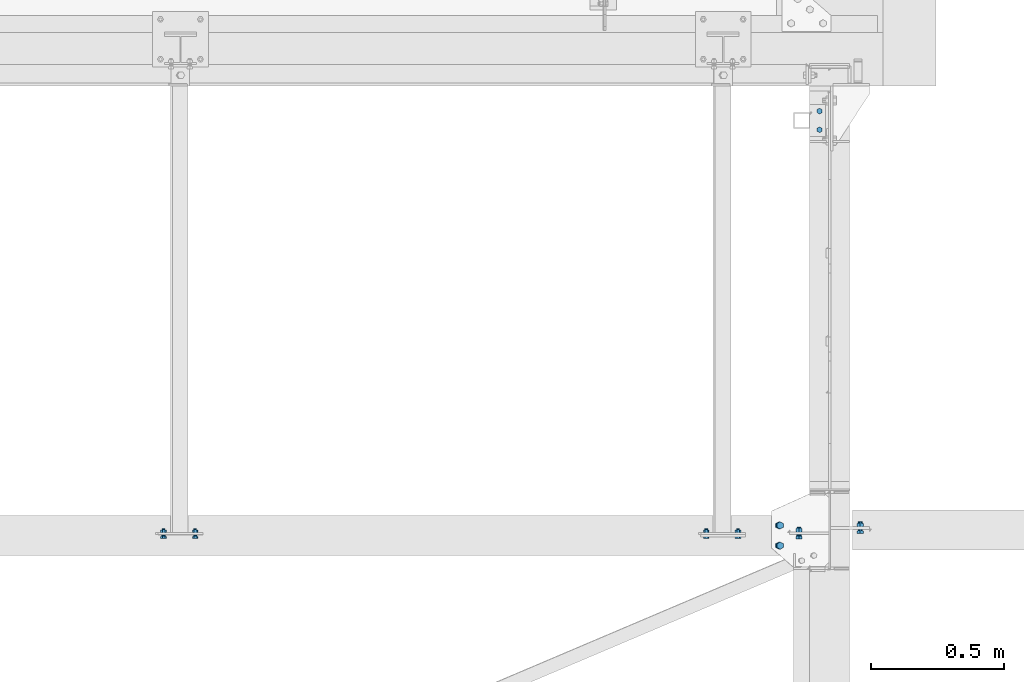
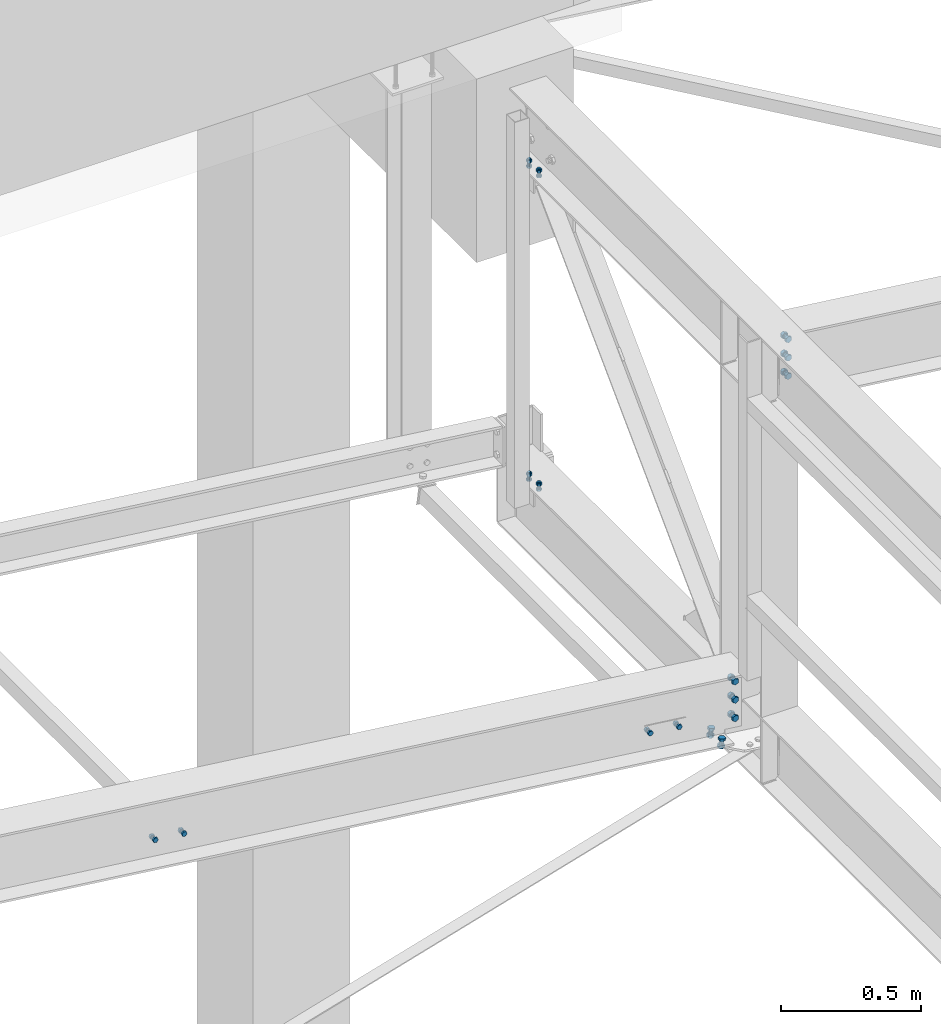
# One storey, part 264 of 3134: 7 mechanical fasteners, 5 elements without a shape of their own.
"""IFC2X3 building model written with IfcOpenShell, lengths in millimetres."""

import ifcopenshell
import ifcopenshell.guid

model = None  # the IFC model being written
_history = None  # IfcOwnerHistory: only IFC2X3 demands one
_inside = {}  # id of a spatial element -> (the spatial element, [elements in it])
_under = {}  # id of a project, library or spatial element -> (it, [spatial elements below it])
_declared = {}  # id of a project -> (the project, [libraries it declares])
_typed = {}  # id of a type object -> (the type object, [elements of that type])
_made_of = {}  # id of a material, layer set ... -> (it, [elements and type objects made of it])


def new_model(schema):
    """Start an empty IFC model of exactly this schema.

    Asked for "IFC4X3", IfcOpenShell would pick the latest addendum, in which some entities
    have other attributes; the version numbers below select the first issue.
    IFC2X3 requires an IfcOwnerHistory on every rooted entity: one is made here for all.
    """
    global model, _history
    if schema == "IFC4X3":
        model = ifcopenshell.file(schema_version=(4, 3, 0, 0))
    else:
        model = ifcopenshell.file(schema=schema)
    _inside.clear()
    _under.clear()
    _declared.clear()
    _typed.clear()
    _made_of.clear()
    _history = None
    if model.schema == "IFC2X3":
        org = make("IfcOrganization", Name="unknown")
        user = make(
            "IfcPersonAndOrganization",
            ThePerson=make("IfcPerson", FamilyName="unknown"),
            TheOrganization=org,
        )
        app = make(
            "IfcApplication",
            ApplicationDeveloper=org,
            Version="unknown",
            ApplicationFullName="unknown",
            ApplicationIdentifier="unknown",
        )
        _history = make(
            "IfcOwnerHistory",
            OwningUser=user,
            OwningApplication=app,
            ChangeAction="ADDED",
            CreationDate=0,
        )
    return model


def make(cls, **values):
    """One entity of the class cls with the attributes given. An attribute that is None is left unset."""
    return model.create_entity(
        cls, **{name: value for name, value in values.items() if value is not None}
    )


def rooted(cls, **values):
    """An entity with a GlobalId (a new one), such as an element, a storey or a relation."""
    return make(cls, GlobalId=ifcopenshell.guid.new(), OwnerHistory=_history, **values)


def si_unit(unit_type, name, prefix=None):
    """IfcSIUnit, for example si_unit("LENGTHUNIT", "METRE", prefix="MILLI")."""
    return make("IfcSIUnit", UnitType=unit_type, Prefix=prefix, Name=name)


def assignment(units):
    """IfcUnitAssignment: the units of a project."""
    return None if units is None else make("IfcUnitAssignment", Units=units)


def point(xyz):
    """IfcCartesianPoint."""
    return None if xyz is None else make("IfcCartesianPoint", Coordinates=xyz)


def direction(xyz):
    """IfcDirection."""
    return None if xyz is None else make("IfcDirection", DirectionRatios=xyz)


def frame(location, z_axis=None, x_axis=None):
    """IfcAxis2Placement3D, a coordinate frame: its origin and axes. An axis left out is left unset."""
    return make(
        "IfcAxis2Placement3D",
        Location=point(location),
        Axis=direction(z_axis),
        RefDirection=direction(x_axis),
    )


def origin_with_axes():
    """The frame at (0, 0, 0) with the z axis (0, 0, 1) and the x axis (1, 0, 0) written out."""
    return frame((0.0, 0.0, 0.0), z_axis=(0.0, 0.0, 1.0), x_axis=(1.0, 0.0, 0.0))


def place(relative_to, where):
    """IfcLocalPlacement: puts the frame where relative to a parent placement (None: the world)."""
    return make(
        "IfcLocalPlacement", PlacementRelTo=relative_to, RelativePlacement=where
    )


def context(
    kind, dimensions, precision=None, world=None, true_north=None, identifier=None
):
    """IfcGeometricRepresentationContext, for example the 3D "Model" context."""
    return make(
        "IfcGeometricRepresentationContext",
        ContextIdentifier=identifier,
        ContextType=kind,
        CoordinateSpaceDimension=dimensions,
        Precision=precision,
        WorldCoordinateSystem=world,
        TrueNorth=true_north,
    )


def subcontext(parent, identifier, kind, view, scale=None):
    """IfcGeometricRepresentationSubContext, for example "Body" below "Model"."""
    return make(
        "IfcGeometricRepresentationSubContext",
        ContextIdentifier=identifier,
        ContextType=kind,
        ParentContext=parent,
        TargetScale=scale,
        TargetView=view,
    )


def project(units=None, contexts=None):
    """IfcProject with its units and contexts."""
    return rooted(
        "IfcProject",
        Name="project",
        RepresentationContexts=contexts,
        UnitsInContext=assignment(units),
    )


def spatial(cls, under=None, at=None, **own):
    """A site, building, storey or space (cls), placed at a placement, below another one or the project."""
    s = rooted(cls, ObjectPlacement=at, **own)
    if under is not None:
        _under.setdefault(under.id(), (under, []))[1].append(s)
    return s


def faces_of(points, faces, orient=None, outer=None):
    """IfcFace entities. A face is a list of loops; a loop is a list of indices into points, from 0.

    orient and outer hold one flag for each loop. By default every Orientation is true, the
    first loop of a face is its IfcFaceOuterBound and the others are IfcFaceBound.
    """
    made = []
    for i, loops in enumerate(faces):
        bounds = []
        for j, loop in enumerate(loops):
            is_outer = j == 0 if outer is None else outer[i][j]
            bounds.append(
                make(
                    "IfcFaceOuterBound" if is_outer else "IfcFaceBound",
                    Bound=make("IfcPolyLoop", Polygon=[points[k] for k in loop]),
                    Orientation=True if orient is None else orient[i][j],
                )
            )
        made.append(make("IfcFace", Bounds=bounds))
    return made


def faceted_brep(points, faces, orient=None, outer=None, voids=None):
    """IfcFacetedBrep: a solid bounded by flat faces; with voids (closed shells), ...WithVoids."""
    shared = [point(p) for p in points]
    hull = make("IfcClosedShell", CfsFaces=faces_of(shared, faces, orient, outer))
    if voids is None:
        return make("IfcFacetedBrep", Outer=hull)
    return make(
        "IfcFacetedBrepWithVoids",
        Outer=hull,
        Voids=[
            make(cls, CfsFaces=faces_of(shared, fs, o, b)) for cls, fs, o, b in voids
        ],
    )


def shape(context_of_items, identifier, shape_type, items):
    """IfcShapeRepresentation: the items that make up one representation, for example the "Body"."""
    return make(
        "IfcShapeRepresentation",
        ContextOfItems=context_of_items,
        RepresentationIdentifier=identifier,
        RepresentationType=shape_type,
        Items=items,
    )


def source(mapping_origin, context_of_items, identifier, shape_type, items):
    """IfcRepresentationMap: a shape defined once, which mapped items show again and again."""
    return make(
        "IfcRepresentationMap",
        MappingOrigin=mapping_origin,
        MappedRepresentation=shape(context_of_items, identifier, shape_type, items),
    )


def transform(
    local_origin,
    x_axis=None,
    y_axis=None,
    z_axis=None,
    scale=None,
    scale2=None,
    scale3=None,
    uniform=True,
):
    """IfcCartesianTransformationOperator3D, or its non-uniform kind. x_axis, y_axis, z_axis: its Axis1, 2, 3."""
    if uniform:
        return make(
            "IfcCartesianTransformationOperator3D",
            Axis1=direction(x_axis),
            Axis2=direction(y_axis),
            LocalOrigin=point(local_origin),
            Scale=scale,
            Axis3=direction(z_axis),
        )
    return make(
        "IfcCartesianTransformationOperator3DnonUniform",
        Axis1=direction(x_axis),
        Axis2=direction(y_axis),
        LocalOrigin=point(local_origin),
        Scale=scale,
        Axis3=direction(z_axis),
        Scale2=scale2,
        Scale3=scale3,
    )


def mapped(mapping_source, mapping_target):
    """IfcMappedItem: shows the shape of a source again, moved by a transform."""
    return make(
        "IfcMappedItem", MappingSource=mapping_source, MappingTarget=mapping_target
    )


def material(Name=None, Category=None):
    """IfcMaterial."""
    return make("IfcMaterial", Name=Name, Category=Category)


def made_of(thing, what):
    """Note that an element or type object is made of a material, layer set ...; save() writes the relation."""
    if what is not None:
        _made_of.setdefault(what.id(), (what, []))[1].append(thing)
    return thing


def type_object(cls, material=None, **own):
    """A type object (cls), such as IfcWallType, which elements share."""
    return made_of(rooted(cls, **own), material)


def element(
    cls,
    number,
    at=None,
    inside=None,
    cuts=None,
    type_object=None,
    material=None,
    context=None,
    identifier="Body",
    shape_type=None,
    held_by="IfcProductDefinitionShape",
    body=None,
    shapes=None,
    **own,
):
    """One element of the class cls, such as IfcWall. Its Tag is "e" and its number.

    at: its placement. inside: the storey or other place that contains it. cuts: it is an
    opening in that element (IfcRelVoidsElement). A single representation is given by context,
    identifier, shape_type and body (its items); several are given by shapes. held_by: the class
    of the entity that holds the representations. save() writes the other relations.
    """
    e = rooted(cls, Tag="e%d" % number, ObjectPlacement=at, **own)
    if body is not None:
        shapes = [shape(context, identifier, shape_type, body)]
    if shapes is not None:
        e.Representation = make(held_by, Representations=shapes)
    if inside is not None:
        _inside.setdefault(inside.id(), (inside, []))[1].append(e)
    if cuts is not None:
        rooted(
            "IfcRelVoidsElement", RelatingBuildingElement=cuts, RelatedOpeningElement=e
        )
    if type_object is not None:
        _typed.setdefault(type_object.id(), (type_object, []))[1].append(e)
    return made_of(e, material)


def aggregate(whole, parts):
    """IfcRelAggregates: a whole, such as a stair, and the parts it consists of."""
    return rooted("IfcRelAggregates", RelatingObject=whole, RelatedObjects=parts)


def save(model, path):
    """Write the relations noted so far, then the file.

    IfcRelAggregates (storeys below a building ...), IfcRelContainedInSpatialStructure (elements
    in a storey), IfcRelDefinesByType, IfcRelAssociatesMaterial and IfcRelDeclares: one each for
    every whole, place, type object, material and project.
    """
    for whole, parts in _under.values():
        aggregate(whole, parts)
    for where, things in _inside.values():
        rooted(
            "IfcRelContainedInSpatialStructure",
            RelatedElements=things,
            RelatingStructure=where,
        )
    for kind, things in _typed.values():
        rooted("IfcRelDefinesByType", RelatedObjects=things, RelatingType=kind)
    for what, things in _made_of.values():
        rooted("IfcRelAssociatesMaterial", RelatedObjects=things, RelatingMaterial=what)
    for by, libraries in _declared.values():
        rooted("IfcRelDeclares", RelatingContext=by, RelatedDefinitions=libraries)
    model.write(path)


model = new_model("IFC2X3")

# Units and contexts
model_context = context("Model", 3, precision=1e-05, world=origin_with_axes())
body_context = subcontext(model_context, "Body", "Model", "MODEL_VIEW")
ifc_project = project(units=[si_unit("LENGTHUNIT", "METRE", prefix="MILLI"), si_unit("AREAUNIT", "SQUARE_METRE"), si_unit("VOLUMEUNIT", "CUBIC_METRE"), si_unit("MASSUNIT", "GRAM", prefix="KILO"), si_unit("TIMEUNIT", "SECOND"), si_unit("PLANEANGLEUNIT", "RADIAN"), si_unit("SOLIDANGLEUNIT", "STERADIAN"), si_unit("THERMODYNAMICTEMPERATUREUNIT", "DEGREE_CELSIUS"), si_unit("LUMINOUSINTENSITYUNIT", "LUMEN")], contexts=[model_context])

# Site, building, storey
site_placement = place(None, origin_with_axes())
site = spatial("IfcSite", under=ifc_project, at=site_placement, CompositionType="ELEMENT")
building_placement = place(site_placement, origin_with_axes())
building = spatial("IfcBuilding", under=site, at=building_placement, Name="Undefined", CompositionType="ELEMENT")
storey_placement = place(building_placement, origin_with_axes())
storey = spatial("IfcBuildingStorey", under=building, at=storey_placement, Name="Undefined", CompositionType="ELEMENT", Elevation=0.0)

# Assembly, mechanical fastener
assembly_1_placement = place(storey_placement, origin_with_axes())
assembly_1 = element("IfcElementAssembly", 1, at=assembly_1_placement, inside=storey, AssemblyPlace="NOTDEFINED", PredefinedType="RIGID_FRAME")
ifc_material = material(Name="8.8")
mechanical_fastener_type = type_object("IfcMechanicalFastenerType", Name="Bolt assembly")
shared_shape_1 = source(origin_with_axes(), body_context, "Body", "Brep", [
    faceted_brep([(10.9696551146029, -14.0999999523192, 0.0), (5.48482755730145, -14.0999999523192, 9.5), (-5.48482755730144, -14.0999999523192, 9.5), (-10.9696551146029, -14.0999999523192, 1.34339530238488e-15), (-5.48482755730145, -14.0999999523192, -9.5), (5.48482755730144, -14.0999999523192, -9.50000000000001), (5.48482755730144, -6.09999995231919, -9.50000000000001), (-5.48482755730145, -6.09999995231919, -9.5), (-10.9696551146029, -6.09999995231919, 1.34339530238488e-15), (-5.48482755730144, -6.09999995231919, 9.5), (5.48482755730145, -6.09999995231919, 9.5), (10.9696551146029, -6.09999995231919, 0.0), (6.0, -6.09999995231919, 0.0), (5.19615242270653, -6.09999995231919, 3.00000000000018), (2.99999999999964, -6.09999995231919, 5.19615242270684), (-6.21801588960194e-13, -6.09999995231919, 6.0), (-3.00000000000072, -6.09999995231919, 5.19615242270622), (-5.19615242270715, -6.09999995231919, 2.9999999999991), (-6.0, -6.09999995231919, -1.24360317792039e-12), (-5.19615242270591, -6.09999995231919, -3.00000000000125), (-2.99999999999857, -6.09999995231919, -5.19615242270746), (1.85874342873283e-12, -6.09999995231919, -6.0), (3.00000000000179, -6.09999995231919, -5.1961524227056), (5.19615242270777, -6.09999995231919, -2.99999999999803), (5.19615242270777, 23.9000000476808, -2.99999999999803), (3.00000000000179, 23.9000000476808, -5.1961524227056), (1.85874342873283e-12, 23.9000000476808, -6.0), (-2.99999999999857, 23.9000000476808, -5.19615242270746), (-5.19615242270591, 23.9000000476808, -3.00000000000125), (-6.0, 23.9000000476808, -1.24360317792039e-12), (-5.19615242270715, 23.9000000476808, 2.9999999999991), (-3.00000000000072, 23.9000000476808, 5.19615242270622), (-6.21801588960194e-13, 23.9000000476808, 6.0), (2.99999999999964, 23.9000000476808, 5.19615242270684), (5.19615242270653, 23.9000000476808, 3.00000000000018), (6.0, 23.9000000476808, 0.0), (10.9696551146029, 8.0, 0.0), (5.48482755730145, 8.0, 9.5), (-5.48482755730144, 8.0, 9.5), (-10.9696551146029, 8.0, 1.34339530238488e-15), (-5.48482755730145, 8.0, -9.5), (5.48482755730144, 8.0, -9.50000000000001), (5.48482755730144, 18.0, -9.50000000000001), (-5.48482755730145, 18.0, -9.5), (-10.9696551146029, 18.0, 1.34339530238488e-15), (-5.48482755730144, 18.0, 9.5), (5.48482755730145, 18.0, 9.5), (10.9696551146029, 18.0, 0.0)], [[[0, 1, 2, 3, 4, 5]], [[6, 7, 8, 9, 10, 11]], [[0, 11, 10, 1]], [[1, 10, 9, 2]], [[2, 9, 8, 3]], [[3, 8, 7, 4]], [[4, 7, 6, 5]], [[5, 6, 11, 0]], [[12, 13, 14, 15, 16, 17, 18, 19, 20, 21, 22, 23]], [[24, 25, 26, 27, 28, 29, 30, 31, 32, 33, 34, 35]], [[12, 35, 34, 13]], [[13, 34, 33, 14]], [[14, 33, 32, 15]], [[15, 32, 31, 16]], [[16, 31, 30, 17]], [[17, 30, 29, 18]], [[18, 29, 28, 19]], [[19, 28, 27, 20]], [[20, 27, 26, 21]], [[21, 26, 25, 22]], [[22, 25, 24, 23]], [[23, 24, 35, 12]], [[36, 37, 38, 39, 40, 41]], [[42, 43, 44, 45, 46, 47]], [[36, 47, 46, 37]], [[37, 46, 45, 38]], [[38, 45, 44, 39]], [[39, 44, 43, 40]], [[40, 43, 42, 41]], [[41, 42, 47, 36]]]),
    faceted_brep([(7.0, -6.0, 0.0), (6.06217782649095, -6.0, 3.50000000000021), (3.49999999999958, -6.0, 6.06217782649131), (-7.25435187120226e-13, -6.0, 7.0), (-3.50000000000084, -6.0, 6.06217782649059), (-6.06217782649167, -6.0, 3.49999999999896), (-7.0, -6.0, -1.45087037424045e-12), (-6.06217782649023, -6.0, -3.50000000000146), (-3.49999999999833, -6.0, -6.06217782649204), (2.1685340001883e-12, -6.0, -7.0), (3.50000000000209, -6.0, -6.06217782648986), (6.0621778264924, -6.0, -3.4999999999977), (6.0621778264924, 0.0999999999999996, -3.4999999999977), (3.50000000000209, 0.0999999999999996, -6.06217782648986), (2.1685340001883e-12, 0.0999999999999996, -7.0), (-3.49999999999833, 0.0999999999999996, -6.06217782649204), (-6.06217782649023, 0.0999999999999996, -3.50000000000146), (-7.0, 0.0999999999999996, -1.45087037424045e-12), (-6.06217782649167, 0.0999999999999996, 3.49999999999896), (-3.50000000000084, 0.0999999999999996, 6.06217782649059), (-7.25435187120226e-13, 0.0999999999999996, 7.0), (3.49999999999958, 0.0999999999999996, 6.06217782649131), (6.06217782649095, 0.0999999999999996, 3.50000000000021), (7.0, 0.0999999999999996, 0.0), (7.0, -0.1, 0.0), (6.06217782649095, -0.1, 3.50000000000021), (3.49999999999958, -0.1, 6.06217782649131), (-7.25435187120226e-13, -0.1, 7.0), (-3.50000000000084, -0.1, 6.06217782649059), (-6.06217782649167, -0.1, 3.49999999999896), (-7.0, -0.1, -1.45087037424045e-12), (-6.06217782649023, -0.1, -3.50000000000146), (-3.49999999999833, -0.1, -6.06217782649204), (2.1685340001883e-12, -0.1, -7.0), (3.50000000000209, -0.1, -6.06217782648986), (6.0621778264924, -0.1, -3.4999999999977), (6.0621778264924, 8.0000000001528, -3.4999999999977), (3.50000000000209, 8.0000000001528, -6.06217782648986), (2.1685340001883e-12, 8.0000000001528, -7.0), (-3.49999999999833, 8.0000000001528, -6.06217782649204), (-6.06217782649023, 8.0000000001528, -3.50000000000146), (-7.0, 8.0000000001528, -1.45087037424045e-12), (-6.06217782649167, 8.0000000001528, 3.49999999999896), (-3.50000000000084, 8.0000000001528, 6.06217782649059), (-7.25435187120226e-13, 8.0000000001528, 7.0), (3.49999999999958, 8.0000000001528, 6.06217782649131), (6.06217782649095, 8.0000000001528, 3.50000000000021), (7.0, 8.0000000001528, 0.0)], [[[0, 1, 2, 3, 4, 5, 6, 7, 8, 9, 10, 11]], [[12, 13, 14, 15, 16, 17, 18, 19, 20, 21, 22, 23]], [[0, 23, 22, 1]], [[1, 22, 21, 2]], [[2, 21, 20, 3]], [[3, 20, 19, 4]], [[4, 19, 18, 5]], [[5, 18, 17, 6]], [[6, 17, 16, 7]], [[7, 16, 15, 8]], [[8, 15, 14, 9]], [[9, 14, 13, 10]], [[10, 13, 12, 11]], [[11, 12, 23, 0]], [[24, 25, 26, 27, 28, 29, 30, 31, 32, 33, 34, 35]], [[36, 37, 38, 39, 40, 41, 42, 43, 44, 45, 46, 47]], [[24, 47, 46, 25]], [[25, 46, 45, 26]], [[26, 45, 44, 27]], [[27, 44, 43, 28]], [[28, 43, 42, 29]], [[29, 42, 41, 30]], [[30, 41, 40, 31]], [[31, 40, 39, 32]], [[32, 39, 38, 33]], [[33, 38, 37, 34]], [[34, 37, 36, 35]], [[35, 36, 47, 24]]]),
])
mechanical_fastener_1_placement = place(assembly_1_placement, frame((30021.1959388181, 48033.05, 4482.21796577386), z_axis=(0.121269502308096, 0.0, 0.992619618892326), x_axis=(0.992619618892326, 0.0, -0.121269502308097)))
mechanical_fastener_1 = element("IfcMechanicalFastener", 2, at=mechanical_fastener_1_placement, type_object=mechanical_fastener_type, material=ifc_material, Name="Bolt assembly", NominalDiameter=12.0, NominalLength=30.0, context=body_context, shape_type="MappedRepresentation", body=[
    mapped(shared_shape_1, transform((0.0, 0.0, 0.0))),
    mapped(shared_shape_1, transform((120.0, 0.0, 0.0))),
])
aggregate(assembly_1, [mechanical_fastener_1])

assembly_2_placement = place(storey_placement, origin_with_axes())
assembly_2 = element("IfcElementAssembly", 3, at=assembly_2_placement, inside=storey, AssemblyPlace="NOTDEFINED", PredefinedType="RIGID_FRAME")
mechanical_fastener_2_placement = place(assembly_2_placement, frame((32061.1959388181, 48033.05, 4233.04796577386), z_axis=(0.121269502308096, 0.0, 0.992619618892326), x_axis=(0.992619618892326, 0.0, -0.121269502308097)))
mechanical_fastener_2 = element("IfcMechanicalFastener", 4, at=mechanical_fastener_2_placement, type_object=mechanical_fastener_type, material=ifc_material, Name="Bolt assembly", NominalDiameter=12.0, NominalLength=30.0, context=body_context, shape_type="MappedRepresentation", body=[
    mapped(shared_shape_1, transform((0.0, 0.0, 0.0))),
    mapped(shared_shape_1, transform((120.0, 0.0, 0.0))),
])
aggregate(assembly_2, [mechanical_fastener_2])

# Assembly, mechanical fasteners
assembly_3_placement = place(storey_placement, origin_with_axes())
assembly_3 = element("IfcElementAssembly", 5, at=assembly_3_placement, inside=storey, Name="300", AssemblyPlace="NOTDEFINED", PredefinedType="RIGID_FRAME")
shared_shape_2 = source(origin_with_axes(), body_context, "Body", "Brep", [
    faceted_brep([(10.9696551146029, -14.0, 0.0), (5.48482755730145, -14.0, 9.5), (-5.48482755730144, -14.0, 9.5), (-10.9696551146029, -14.0, 1.34339530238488e-15), (-5.48482755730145, -14.0, -9.5), (5.48482755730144, -14.0, -9.50000000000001), (5.48482755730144, -6.0, -9.50000000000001), (-5.48482755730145, -6.0, -9.5), (-10.9696551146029, -6.0, 1.34339530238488e-15), (-5.48482755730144, -6.0, 9.5), (5.48482755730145, -6.0, 9.5), (10.9696551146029, -6.0, 0.0), (6.0, -6.0, 0.0), (5.19615242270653, -6.0, 3.00000000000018), (2.99999999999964, -6.0, 5.19615242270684), (-6.21801588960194e-13, -6.0, 6.0), (-3.00000000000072, -6.0, 5.19615242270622), (-5.19615242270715, -6.0, 2.9999999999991), (-6.0, -6.0, -1.24360317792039e-12), (-5.19615242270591, -6.0, -3.00000000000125), (-2.99999999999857, -6.0, -5.19615242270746), (1.85874342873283e-12, -6.0, -6.0), (3.00000000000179, -6.0, -5.1961524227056), (5.19615242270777, -6.0, -2.99999999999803), (5.19615242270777, 24.0, -2.99999999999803), (3.00000000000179, 24.0, -5.1961524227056), (1.85874342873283e-12, 24.0, -6.0), (-2.99999999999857, 24.0, -5.19615242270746), (-5.19615242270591, 24.0, -3.00000000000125), (-6.0, 24.0, -1.24360317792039e-12), (-5.19615242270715, 24.0, 2.9999999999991), (-3.00000000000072, 24.0, 5.19615242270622), (-6.21801588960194e-13, 24.0, 6.0), (2.99999999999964, 24.0, 5.19615242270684), (5.19615242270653, 24.0, 3.00000000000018), (6.0, 24.0, 0.0), (10.9696551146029, 9.20207715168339, 0.0), (5.48482755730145, 9.20207715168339, 9.5), (-5.48482755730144, 9.20207715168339, 9.5), (-10.9696551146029, 9.20207715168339, 1.34339530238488e-15), (-5.48482755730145, 9.20207715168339, -9.5), (5.48482755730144, 9.20207715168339, -9.50000000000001), (5.48482755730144, 19.2020771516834, -9.50000000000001), (-5.48482755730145, 19.2020771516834, -9.5), (-10.9696551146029, 19.2020771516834, 1.34339530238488e-15), (-5.48482755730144, 19.2020771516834, 9.5), (5.48482755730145, 19.2020771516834, 9.5), (10.9696551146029, 19.2020771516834, 0.0)], [[[0, 1, 2, 3, 4, 5]], [[6, 7, 8, 9, 10, 11]], [[0, 11, 10, 1]], [[1, 10, 9, 2]], [[2, 9, 8, 3]], [[3, 8, 7, 4]], [[4, 7, 6, 5]], [[5, 6, 11, 0]], [[12, 13, 14, 15, 16, 17, 18, 19, 20, 21, 22, 23]], [[24, 25, 26, 27, 28, 29, 30, 31, 32, 33, 34, 35]], [[12, 35, 34, 13]], [[13, 34, 33, 14]], [[14, 33, 32, 15]], [[15, 32, 31, 16]], [[16, 31, 30, 17]], [[17, 30, 29, 18]], [[18, 29, 28, 19]], [[19, 28, 27, 20]], [[20, 27, 26, 21]], [[21, 26, 25, 22]], [[22, 25, 24, 23]], [[23, 24, 35, 12]], [[36, 37, 38, 39, 40, 41]], [[42, 43, 44, 45, 46, 47]], [[36, 47, 46, 37]], [[37, 46, 45, 38]], [[38, 45, 44, 39]], [[39, 44, 43, 40]], [[40, 43, 42, 41]], [[41, 42, 47, 36]]]),
    faceted_brep([(7.0, -5.9, 0.0), (6.06217782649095, -5.9, 3.50000000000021), (3.49999999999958, -5.9, 6.06217782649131), (-7.25435187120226e-13, -5.9, 7.0), (-3.50000000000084, -5.9, 6.06217782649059), (-6.06217782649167, -5.9, 3.49999999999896), (-7.0, -5.9, -1.45087037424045e-12), (-6.06217782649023, -5.9, -3.50000000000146), (-3.49999999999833, -5.9, -6.06217782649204), (2.1685340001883e-12, -5.9, -7.0), (3.50000000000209, -5.9, -6.06217782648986), (6.0621778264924, -5.9, -3.4999999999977), (6.0621778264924, 0.0999999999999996, -3.4999999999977), (3.50000000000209, 0.0999999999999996, -6.06217782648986), (2.1685340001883e-12, 0.0999999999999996, -7.0), (-3.49999999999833, 0.0999999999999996, -6.06217782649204), (-6.06217782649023, 0.0999999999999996, -3.50000000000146), (-7.0, 0.0999999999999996, -1.45087037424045e-12), (-6.06217782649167, 0.0999999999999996, 3.49999999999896), (-3.50000000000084, 0.0999999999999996, 6.06217782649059), (-7.25435187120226e-13, 0.0999999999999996, 7.0), (3.49999999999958, 0.0999999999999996, 6.06217782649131), (6.06217782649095, 0.0999999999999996, 3.50000000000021), (7.0, 0.0999999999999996, 0.0), (7.0, -0.097922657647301, 0.0), (6.06217782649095, -0.097922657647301, 3.50000000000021), (3.49999999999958, -0.097922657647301, 6.06217782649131), (-7.25435187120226e-13, -0.097922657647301, 7.0), (-3.50000000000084, -0.097922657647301, 6.06217782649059), (-6.06217782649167, -0.097922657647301, 3.49999999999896), (-7.0, -0.097922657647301, -1.45087037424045e-12), (-6.06217782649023, -0.097922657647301, -3.50000000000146), (-3.49999999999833, -0.097922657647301, -6.06217782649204), (2.1685340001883e-12, -0.097922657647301, -7.0), (3.50000000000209, -0.097922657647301, -6.06217782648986), (6.0621778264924, -0.097922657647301, -3.4999999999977), (6.0621778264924, 9.20207715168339, -3.4999999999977), (3.50000000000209, 9.20207715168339, -6.06217782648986), (2.1685340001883e-12, 9.20207715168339, -7.0), (-3.49999999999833, 9.20207715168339, -6.06217782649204), (-6.06217782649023, 9.20207715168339, -3.50000000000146), (-7.0, 9.20207715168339, -1.45087037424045e-12), (-6.06217782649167, 9.20207715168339, 3.49999999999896), (-3.50000000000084, 9.20207715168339, 6.06217782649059), (-7.25435187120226e-13, 9.20207715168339, 7.0), (3.49999999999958, 9.20207715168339, 6.06217782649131), (6.06217782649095, 9.20207715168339, 3.50000000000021), (7.0, 9.20207715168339, 0.0)], [[[0, 1, 2, 3, 4, 5, 6, 7, 8, 9, 10, 11]], [[12, 13, 14, 15, 16, 17, 18, 19, 20, 21, 22, 23]], [[0, 23, 22, 1]], [[1, 22, 21, 2]], [[2, 21, 20, 3]], [[3, 20, 19, 4]], [[4, 19, 18, 5]], [[5, 18, 17, 6]], [[6, 17, 16, 7]], [[7, 16, 15, 8]], [[8, 15, 14, 9]], [[9, 14, 13, 10]], [[10, 13, 12, 11]], [[11, 12, 23, 0]], [[24, 25, 26, 27, 28, 29, 30, 31, 32, 33, 34, 35]], [[36, 37, 38, 39, 40, 41, 42, 43, 44, 45, 46, 47]], [[24, 47, 46, 25]], [[25, 46, 45, 26]], [[26, 45, 44, 27]], [[27, 44, 43, 28]], [[28, 43, 42, 29]], [[29, 42, 41, 30]], [[30, 41, 40, 31]], [[31, 40, 39, 32]], [[32, 39, 38, 33]], [[33, 38, 37, 34]], [[34, 37, 36, 35]], [[35, 36, 47, 24]]]),
])
mechanical_fastener_3_placement = place(assembly_3_placement, frame((32487.0, 49625.0001186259, 5592.99792265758), z_axis=(-1.0, 0.0, 0.0), x_axis=(0.0, -0.99999999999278, 3.80000037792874e-06)))
mechanical_fastener_3 = element("IfcMechanicalFastener", 6, at=mechanical_fastener_3_placement, type_object=mechanical_fastener_type, material=ifc_material, Name="Bolt assembly", NominalDiameter=12.0, NominalLength=30.0, context=body_context, shape_type="MappedRepresentation", body=[
    mapped(shared_shape_2, transform((0.0, 0.0, 0.0))),
    mapped(shared_shape_2, transform((70.0000000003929, -2.94676283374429e-10, 0.0))),
])
mechanical_fastener_4_placement = place(assembly_3_placement, frame((32487.0, 49625.0001186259, 4227.79792265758), z_axis=(-1.0, 0.0, 0.0), x_axis=(0.0, -0.99999999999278, 3.80000037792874e-06)))
mechanical_fastener_4 = element("IfcMechanicalFastener", 7, at=mechanical_fastener_4_placement, type_object=mechanical_fastener_type, material=ifc_material, Name="Bolt assembly", NominalDiameter=12.0, NominalLength=30.0, context=body_context, shape_type="MappedRepresentation", body=[
    mapped(shared_shape_2, transform((0.0, 0.0, 0.0))),
    mapped(shared_shape_2, transform((70.0000000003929, -2.94676283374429e-10, 0.0))),
])
aggregate(assembly_3, [mechanical_fastener_3, mechanical_fastener_4])

assembly_4_placement = place(storey_placement, origin_with_axes())
assembly_4 = element("IfcElementAssembly", 8, at=assembly_4_placement, inside=storey, Name="300", AssemblyPlace="NOTDEFINED", PredefinedType="RIGID_FRAME")
shared_shape_3 = source(origin_with_axes(), body_context, "Body", "Brep", [
    faceted_brep([(13.856406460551, -19.199990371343, 0.0), (6.92820323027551, -19.199990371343, 12.0), (-6.92820323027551, -19.199990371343, 12.0), (-13.856406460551, -19.199990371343, 1.69692038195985e-15), (-6.92820323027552, -19.199990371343, -12.0), (6.9282032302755, -19.199990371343, -12.0), (6.9282032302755, -9.19999037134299, -12.0), (-6.92820323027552, -9.19999037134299, -12.0), (-13.856406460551, -9.19999037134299, 1.69692038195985e-15), (-6.92820323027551, -9.19999037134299, 12.0), (6.92820323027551, -9.19999037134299, 12.0), (13.856406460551, -9.19999037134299, 0.0), (8.0, -9.19999037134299, 0.0), (6.92820323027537, -9.19999037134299, 4.00000000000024), (3.99999999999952, -9.19999037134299, 6.92820323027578), (-8.29068785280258e-13, -9.19999037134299, 8.0), (-4.00000000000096, -9.19999037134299, 6.92820323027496), (-6.9282032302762, -9.19999037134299, 3.99999999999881), (-8.0, -9.19999037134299, -1.65813757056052e-12), (-6.92820323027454, -9.19999037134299, -4.00000000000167), (-3.99999999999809, -9.19999037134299, -6.92820323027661), (2.47832457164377e-12, -9.19999037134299, -8.0), (4.00000000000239, -9.19999037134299, -6.92820323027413), (6.92820323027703, -9.19999037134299, -3.99999999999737), (6.92820323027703, 25.800009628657, -3.99999999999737), (4.00000000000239, 25.800009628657, -6.92820323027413), (2.47832457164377e-12, 25.800009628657, -8.0), (-3.99999999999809, 25.800009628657, -6.92820323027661), (-6.92820323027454, 25.800009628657, -4.00000000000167), (-8.0, 25.800009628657, -1.65813757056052e-12), (-6.9282032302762, 25.800009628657, 3.99999999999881), (-4.00000000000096, 25.800009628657, 6.92820323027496), (-8.29068785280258e-13, 25.800009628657, 8.0), (3.99999999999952, 25.800009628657, 6.92820323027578), (6.92820323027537, 25.800009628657, 4.00000000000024), (8.0, 25.800009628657, 0.0), (13.856406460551, 8.00000637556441, 0.0), (6.92820323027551, 8.00000637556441, 12.0), (-6.92820323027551, 8.00000637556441, 12.0), (-13.856406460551, 8.00000637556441, 1.69692038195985e-15), (-6.92820323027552, 8.00000637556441, -12.0), (6.9282032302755, 8.00000637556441, -12.0), (6.9282032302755, 21.0000063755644, -12.0), (-6.92820323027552, 21.0000063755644, -12.0), (-13.856406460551, 21.0000063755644, 1.69692038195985e-15), (-6.92820323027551, 21.0000063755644, 12.0), (6.92820323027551, 21.0000063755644, 12.0), (13.856406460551, 21.0000063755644, 0.0)], [[[0, 1, 2, 3, 4, 5]], [[6, 7, 8, 9, 10, 11]], [[0, 11, 10, 1]], [[1, 10, 9, 2]], [[2, 9, 8, 3]], [[3, 8, 7, 4]], [[4, 7, 6, 5]], [[5, 6, 11, 0]], [[12, 13, 14, 15, 16, 17, 18, 19, 20, 21, 22, 23]], [[24, 25, 26, 27, 28, 29, 30, 31, 32, 33, 34, 35]], [[12, 35, 34, 13]], [[13, 34, 33, 14]], [[14, 33, 32, 15]], [[15, 32, 31, 16]], [[16, 31, 30, 17]], [[17, 30, 29, 18]], [[18, 29, 28, 19]], [[19, 28, 27, 20]], [[20, 27, 26, 21]], [[21, 26, 25, 22]], [[22, 25, 24, 23]], [[23, 24, 35, 12]], [[36, 37, 38, 39, 40, 41]], [[42, 43, 44, 45, 46, 47]], [[36, 47, 46, 37]], [[37, 46, 45, 38]], [[38, 45, 44, 39]], [[39, 44, 43, 40]], [[40, 43, 42, 41]], [[41, 42, 47, 36]]]),
    faceted_brep([(9.0, -0.1, 0.0), (7.79422863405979, -0.1, 4.50000000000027), (4.49999999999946, -0.1, 7.79422863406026), (-9.3270238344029e-13, -0.1, 9.0), (-4.50000000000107, -0.1, 7.79422863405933), (-7.79422863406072, -0.1, 4.49999999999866), (-9.0, -0.1, -1.86540476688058e-12), (-7.79422863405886, -0.1, -4.50000000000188), (-4.49999999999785, -0.1, -7.79422863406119), (2.78811514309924e-12, -0.1, -9.0), (4.50000000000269, -0.1, -7.7942286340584), (7.79422863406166, -0.1, -4.49999999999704), (7.79422863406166, 8.00000000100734, -4.49999999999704), (4.50000000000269, 8.00000000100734, -7.7942286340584), (2.78811514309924e-12, 8.00000000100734, -9.0), (-4.49999999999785, 8.00000000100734, -7.79422863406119), (-7.79422863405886, 8.00000000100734, -4.50000000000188), (-9.0, 8.00000000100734, -1.86540476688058e-12), (-7.79422863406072, 8.00000000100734, 4.49999999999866), (-4.50000000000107, 8.00000000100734, 7.79422863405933), (-9.3270238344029e-13, 8.00000000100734, 9.0), (4.49999999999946, 8.00000000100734, 7.79422863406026), (7.79422863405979, 8.00000000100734, 4.50000000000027), (9.0, 8.00000000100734, 0.0), (9.0, -9.09999037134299, 0.0), (7.79422863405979, -9.09999037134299, 4.50000000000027), (4.49999999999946, -9.09999037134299, 7.79422863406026), (-9.3270238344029e-13, -9.09999037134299, 9.0), (-4.50000000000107, -9.09999037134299, 7.79422863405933), (-7.79422863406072, -9.09999037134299, 4.49999999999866), (-9.0, -9.09999037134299, -1.86540476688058e-12), (-7.79422863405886, -9.09999037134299, -4.50000000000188), (-4.49999999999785, -9.09999037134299, -7.79422863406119), (2.78811514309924e-12, -9.09999037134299, -9.0), (4.50000000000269, -9.09999037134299, -7.7942286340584), (7.79422863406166, -9.09999037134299, -4.49999999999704), (7.79422863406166, 0.100000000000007, -4.49999999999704), (4.50000000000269, 0.100000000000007, -7.7942286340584), (2.78811514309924e-12, 0.100000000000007, -9.0), (-4.49999999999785, 0.100000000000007, -7.79422863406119), (-7.79422863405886, 0.100000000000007, -4.50000000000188), (-9.0, 0.100000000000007, -1.86540476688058e-12), (-7.79422863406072, 0.100000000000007, 4.49999999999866), (-4.50000000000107, 0.100000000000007, 7.79422863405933), (-9.3270238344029e-13, 0.100000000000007, 9.0), (4.49999999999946, 0.100000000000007, 7.79422863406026), (7.79422863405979, 0.100000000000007, 4.50000000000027), (9.0, 0.100000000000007, 0.0)], [[[0, 1, 2, 3, 4, 5, 6, 7, 8, 9, 10, 11]], [[12, 13, 14, 15, 16, 17, 18, 19, 20, 21, 22, 23]], [[0, 23, 22, 1]], [[1, 22, 21, 2]], [[2, 21, 20, 3]], [[3, 20, 19, 4]], [[4, 19, 18, 5]], [[5, 18, 17, 6]], [[6, 17, 16, 7]], [[7, 16, 15, 8]], [[8, 15, 14, 9]], [[9, 14, 13, 10]], [[10, 13, 12, 11]], [[11, 12, 23, 0]], [[24, 25, 26, 27, 28, 29, 30, 31, 32, 33, 34, 35]], [[36, 37, 38, 39, 40, 41, 42, 43, 44, 45, 46, 47]], [[24, 47, 46, 25]], [[25, 46, 45, 26]], [[26, 45, 44, 27]], [[27, 44, 43, 28]], [[28, 43, 42, 29]], [[29, 42, 41, 30]], [[30, 41, 40, 31]], [[31, 40, 39, 32]], [[32, 39, 38, 33]], [[33, 38, 37, 34]], [[34, 37, 36, 35]], [[35, 36, 47, 24]]]),
])
mechanical_fastener_5_placement = place(assembly_4_placement, frame((32336.7539628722, 48067.9995130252, 4116.78546253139), z_axis=(0.992623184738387, -1.63108538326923e-05, -0.12124031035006), x_axis=(-1.62000016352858e-05, -0.999999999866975, 1.90000018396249e-06)))
mechanical_fastener_5 = element("IfcMechanicalFastener", 9, at=mechanical_fastener_5_placement, type_object=mechanical_fastener_type, material=ifc_material, Name="Bolt assembly", NominalDiameter=16.0, NominalLength=35.0, context=body_context, shape_type="MappedRepresentation", body=[
    mapped(shared_shape_3, transform((0.0, 0.0, 0.0))),
    mapped(shared_shape_3, transform((76.0, 0.0, 0.0))),
])
shared_shape_4 = source(origin_with_axes(), body_context, "Body", "Brep", [
    faceted_brep([(13.856406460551, -13.0499999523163, 0.0), (6.92820323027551, -13.0499999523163, 12.0), (-6.92820323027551, -13.0499999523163, 12.0), (-13.856406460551, -13.0499999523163, 1.69692038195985e-15), (-6.92820323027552, -13.0499999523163, -12.0), (6.9282032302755, -13.0499999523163, -12.0), (6.9282032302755, -3.04999995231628, -12.0), (-6.92820323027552, -3.04999995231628, -12.0), (-13.856406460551, -3.04999995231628, 1.69692038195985e-15), (-6.92820323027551, -3.04999995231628, 12.0), (6.92820323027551, -3.04999995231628, 12.0), (13.856406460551, -3.04999995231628, 0.0), (8.0, -3.04999995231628, 0.0), (6.92820323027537, -3.04999995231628, 4.00000000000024), (3.99999999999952, -3.04999995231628, 6.92820323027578), (-8.29068785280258e-13, -3.04999995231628, 8.0), (-4.00000000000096, -3.04999995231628, 6.92820323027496), (-6.9282032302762, -3.04999995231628, 3.99999999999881), (-8.0, -3.04999995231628, -1.65813757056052e-12), (-6.92820323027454, -3.04999995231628, -4.00000000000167), (-3.99999999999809, -3.04999995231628, -6.92820323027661), (2.47832457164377e-12, -3.04999995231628, -8.0), (4.00000000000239, -3.04999995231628, -6.92820323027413), (6.92820323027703, -3.04999995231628, -3.99999999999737), (6.92820323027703, 31.9500000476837, -3.99999999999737), (4.00000000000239, 31.9500000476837, -6.92820323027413), (2.47832457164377e-12, 31.9500000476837, -8.0), (-3.99999999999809, 31.9500000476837, -6.92820323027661), (-6.92820323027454, 31.9500000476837, -4.00000000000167), (-8.0, 31.9500000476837, -1.65813757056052e-12), (-6.9282032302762, 31.9500000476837, 3.99999999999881), (-4.00000000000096, 31.9500000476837, 6.92820323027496), (-8.29068785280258e-13, 31.9500000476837, 8.0), (3.99999999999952, 31.9500000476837, 6.92820323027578), (6.92820323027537, 31.9500000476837, 4.00000000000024), (8.0, 31.9500000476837, 0.0), (13.856406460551, 13.0500000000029, 0.0), (6.92820323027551, 13.0500000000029, 12.0), (-6.92820323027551, 13.0500000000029, 12.0), (-13.856406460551, 13.0500000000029, 1.69692038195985e-15), (-6.92820323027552, 13.0500000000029, -12.0), (6.9282032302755, 13.0500000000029, -12.0), (6.9282032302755, 26.0500000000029, -12.0), (-6.92820323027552, 26.0500000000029, -12.0), (-13.856406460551, 26.0500000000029, 1.69692038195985e-15), (-6.92820323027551, 26.0500000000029, 12.0), (6.92820323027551, 26.0500000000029, 12.0), (13.856406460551, 26.0500000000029, 0.0)], [[[0, 1, 2, 3, 4, 5]], [[6, 7, 8, 9, 10, 11]], [[0, 11, 10, 1]], [[1, 10, 9, 2]], [[2, 9, 8, 3]], [[3, 8, 7, 4]], [[4, 7, 6, 5]], [[5, 6, 11, 0]], [[12, 13, 14, 15, 16, 17, 18, 19, 20, 21, 22, 23]], [[24, 25, 26, 27, 28, 29, 30, 31, 32, 33, 34, 35]], [[12, 35, 34, 13]], [[13, 34, 33, 14]], [[14, 33, 32, 15]], [[15, 32, 31, 16]], [[16, 31, 30, 17]], [[17, 30, 29, 18]], [[18, 29, 28, 19]], [[19, 28, 27, 20]], [[20, 27, 26, 21]], [[21, 26, 25, 22]], [[22, 25, 24, 23]], [[23, 24, 35, 12]], [[36, 37, 38, 39, 40, 41]], [[42, 43, 44, 45, 46, 47]], [[36, 47, 46, 37]], [[37, 46, 45, 38]], [[38, 45, 44, 39]], [[39, 44, 43, 40]], [[40, 43, 42, 41]], [[41, 42, 47, 36]]]),
    faceted_brep([(9.0, 2.95000000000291, 0.0), (7.79422863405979, 2.95000000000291, 4.50000000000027), (4.49999999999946, 2.95000000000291, 7.79422863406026), (-9.3270238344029e-13, 2.95000000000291, 9.0), (-4.50000000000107, 2.95000000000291, 7.79422863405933), (-7.79422863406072, 2.95000000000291, 4.49999999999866), (-9.0, 2.95000000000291, -1.86540476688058e-12), (-7.79422863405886, 2.95000000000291, -4.50000000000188), (-4.49999999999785, 2.95000000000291, -7.79422863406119), (2.78811514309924e-12, 2.95000000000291, -9.0), (4.50000000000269, 2.95000000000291, -7.7942286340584), (7.79422863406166, 2.95000000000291, -4.49999999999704), (7.79422863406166, 13.0500000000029, -4.49999999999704), (4.50000000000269, 13.0500000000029, -7.7942286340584), (2.78811514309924e-12, 13.0500000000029, -9.0), (-4.49999999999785, 13.0500000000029, -7.79422863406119), (-7.79422863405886, 13.0500000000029, -4.50000000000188), (-9.0, 13.0500000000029, -1.86540476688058e-12), (-7.79422863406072, 13.0500000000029, 4.49999999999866), (-4.50000000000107, 13.0500000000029, 7.79422863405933), (-9.3270238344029e-13, 13.0500000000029, 9.0), (4.49999999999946, 13.0500000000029, 7.79422863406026), (7.79422863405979, 13.0500000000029, 4.50000000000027), (9.0, 13.0500000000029, 0.0), (9.0, -2.94999995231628, 0.0), (7.79422863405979, -2.94999995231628, 4.50000000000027), (4.49999999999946, -2.94999995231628, 7.79422863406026), (-9.3270238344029e-13, -2.94999995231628, 9.0), (-4.50000000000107, -2.94999995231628, 7.79422863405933), (-7.79422863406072, -2.94999995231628, 4.49999999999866), (-9.0, -2.94999995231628, -1.86540476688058e-12), (-7.79422863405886, -2.94999995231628, -4.50000000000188), (-4.49999999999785, -2.94999995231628, -7.79422863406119), (2.78811514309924e-12, -2.94999995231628, -9.0), (4.50000000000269, -2.94999995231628, -7.7942286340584), (7.79422863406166, -2.94999995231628, -4.49999999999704), (7.79422863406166, 3.14999995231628, -4.49999999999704), (4.50000000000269, 3.14999995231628, -7.7942286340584), (2.78811514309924e-12, 3.14999995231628, -9.0), (-4.49999999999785, 3.14999995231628, -7.79422863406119), (-7.79422863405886, 3.14999995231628, -4.50000000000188), (-9.0, 3.14999995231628, -1.86540476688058e-12), (-7.79422863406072, 3.14999995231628, 4.49999999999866), (-4.50000000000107, 3.14999995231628, 7.79422863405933), (-9.3270238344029e-13, 3.14999995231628, 9.0), (4.49999999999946, 3.14999995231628, 7.79422863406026), (7.79422863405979, 3.14999995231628, 4.50000000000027), (9.0, 3.14999995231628, 0.0)], [[[0, 1, 2, 3, 4, 5, 6, 7, 8, 9, 10, 11]], [[12, 13, 14, 15, 16, 17, 18, 19, 20, 21, 22, 23]], [[0, 23, 22, 1]], [[1, 22, 21, 2]], [[2, 21, 20, 3]], [[3, 20, 19, 4]], [[4, 19, 18, 5]], [[5, 18, 17, 6]], [[6, 17, 16, 7]], [[7, 16, 15, 8]], [[8, 15, 14, 9]], [[9, 14, 13, 10]], [[10, 13, 12, 11]], [[11, 12, 23, 0]], [[24, 25, 26, 27, 28, 29, 30, 31, 32, 33, 34, 35]], [[36, 37, 38, 39, 40, 41, 42, 43, 44, 45, 46, 47]], [[24, 47, 46, 25]], [[25, 46, 45, 26]], [[26, 45, 44, 27]], [[27, 44, 43, 28]], [[28, 43, 42, 29]], [[29, 42, 41, 30]], [[30, 41, 40, 31]], [[31, 40, 39, 32]], [[32, 39, 38, 33]], [[33, 38, 37, 34]], [[34, 37, 36, 35]], [[35, 36, 47, 24]]]),
])
mechanical_fastener_6_placement = place(assembly_4_placement, frame((32410.0, 48030.0, 4337.44269270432), z_axis=(1.0, 0.0, 0.0), x_axis=(0.0, 0.0, -1.0)))
mechanical_fastener_6 = element("IfcMechanicalFastener", 10, at=mechanical_fastener_6_placement, type_object=mechanical_fastener_type, material=ifc_material, Name="Bolt assembly", NominalDiameter=16.0, NominalLength=35.0, context=body_context, shape_type="MappedRepresentation", body=[
    mapped(shared_shape_4, transform((0.0, 0.0, 0.0))),
    mapped(shared_shape_4, transform((80.0, 0.0, 0.0))),
    mapped(shared_shape_4, transform((160.0, 0.0, 0.0))),
])
aggregate(assembly_4, [mechanical_fastener_5, mechanical_fastener_6])

# Assembly, mechanical fastener
assembly_5_placement = place(storey_placement, origin_with_axes())
assembly_5 = element("IfcElementAssembly", 11, at=assembly_5_placement, inside=storey, Name="300", AssemblyPlace="NOTDEFINED", PredefinedType="RIGID_FRAME")
mechanical_fastener_7_placement = place(assembly_5_placement, frame((32640.0, 48050.0, 5735.35014950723), z_axis=(1.0, 0.0, 0.0), x_axis=(0.0, 0.0, -1.0)))
mechanical_fastener_7 = element("IfcMechanicalFastener", 12, at=mechanical_fastener_7_placement, type_object=mechanical_fastener_type, material=ifc_material, Name="Bolt assembly", NominalDiameter=16.0, NominalLength=35.0, context=body_context, shape_type="MappedRepresentation", body=[
    mapped(shared_shape_4, transform((0.0, 0.0, 0.0))),
    mapped(shared_shape_4, transform((80.0, 0.0, 0.0))),
    mapped(shared_shape_4, transform((160.0, 0.0, 0.0))),
])
aggregate(assembly_5, [mechanical_fastener_7])

save(model, "model.ifc")
